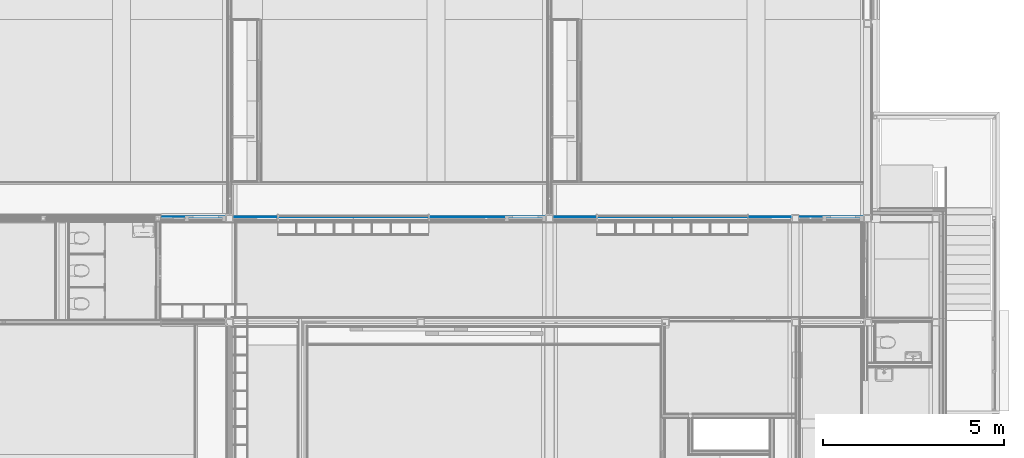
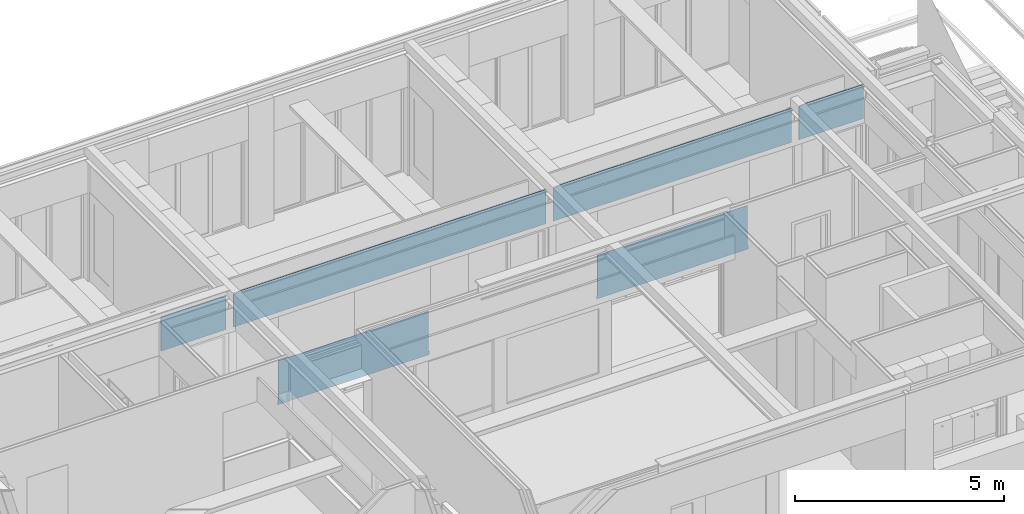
# One storey, part 34 of 165: 1 building element part, 14 openings, 1 element without a shape of its own.
"""IFC2X3 building model written with IfcOpenShell, lengths in millimetres."""

from ifc_helpers import new_model, entity, si_unit, converted_unit, derived_unit, money_unit, direction, frame, origin_with_axes, place, context, subcontext, project, spatial, faceted_brep, material, type_object, element, aggregate, save


model = new_model("IFC2X3")

# Units and contexts
model_context = context("Model", 3, precision=0.01, world=origin_with_axes(), true_north=direction((0.0, 1.0)))
body_context = subcontext(model_context, "Body", "Model", "MODEL_VIEW")
ifc_project = project(units=[si_unit("LENGTHUNIT", "METRE", prefix="MILLI"), si_unit("AREAUNIT", "SQUARE_METRE"), si_unit("VOLUMEUNIT", "CUBIC_METRE"), converted_unit("PLANEANGLEUNIT", "DEGREE", entity("IfcPlaneAngleMeasure", 0.0174532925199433), si_unit("PLANEANGLEUNIT", "RADIAN"), dimensions=[0, 0, 0, 0, 0, 0, 0]), money_unit("EUR"), converted_unit("TIMEUNIT", "Year", entity("IfcTimeMeasure", 31556926.0), si_unit("TIMEUNIT", "SECOND"), dimensions=[0, 0, 1, 0, 0, 0, 0]), si_unit("MASSUNIT", "GRAM", prefix="KILO"), si_unit("THERMODYNAMICTEMPERATUREUNIT", "DEGREE_CELSIUS"), si_unit("LUMINOUSINTENSITYUNIT", "LUMEN"), si_unit("ENERGYUNIT", "JOULE", prefix="MEGA"), derived_unit("THERMALCONDUCTANCEUNIT", [(si_unit("POWERUNIT", "WATT"), 1), (si_unit("LENGTHUNIT", "METRE"), -1), (si_unit("THERMODYNAMICTEMPERATUREUNIT", "KELVIN"), -1)]), derived_unit("SPECIFICHEATCAPACITYUNIT", [(si_unit("ENERGYUNIT", "JOULE"), 1), (si_unit("MASSUNIT", "GRAM", prefix="KILO"), -1), (si_unit("THERMODYNAMICTEMPERATUREUNIT", "KELVIN"), -1)]), derived_unit("MASSDENSITYUNIT", [(si_unit("MASSUNIT", "GRAM", prefix="KILO"), 1), (si_unit("VOLUMEUNIT", "CUBIC_METRE"), -1)])], contexts=[model_context])

# Site, building, storey
site_placement = place(None, origin_with_axes())
site = spatial("IfcSite", under=ifc_project, at=site_placement, Name="Site", CompositionType="ELEMENT")
building_placement = place(site_placement, origin_with_axes())
building = spatial("IfcBuilding", under=site, at=building_placement, Name="Naam gebouw", CompositionType="ELEMENT")
storey_placement = place(building_placement, origin_with_axes())
storey = spatial("IfcBuildingStorey", under=building, at=storey_placement, Name="Begane grond", CompositionType="ELEMENT", Elevation=0.0)

# Proxy, openings, building element part
building_element_proxy_type = type_object("IfcBuildingElementProxyType", Name="22 Metal stud 125 gips 125", PredefinedType="NOTDEFINED")
proxy_placement = place(storey_placement, frame((6940.0, 22324.99474661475, -100.0), z_axis=(0.0, 0.0, 1.0), x_axis=(0.9999999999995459, -9.530261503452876e-07, 0.0)))
proxy = element("IfcBuildingElementProxy", 1, at=proxy_placement, inside=storey, type_object=building_element_proxy_type, Name="_Wand-x")
opening_1_placement = place(proxy_placement, frame((11459.99904000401, 0.0, 100.0), z_axis=(0.0, 0.0, 1.0), x_axis=(1.0, 0.0, 0.0)))
element("IfcOpeningElement", 2, at=opening_1_placement, cuts=proxy, Name="_B.01", context=body_context, shape_type="Brep", body=[
    faceted_brep([(600.0000000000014, -12.50000000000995, -100.0000000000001), (600.0000000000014, -12.50000000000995, 2600.0), (600.0000000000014, -63.51853254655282, 2600.0), (600.0000000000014, -63.51853254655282, -100.0000000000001), (600.0000000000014, 63.51853254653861, -100.0000000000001), (600.0000000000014, 63.51853254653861, 2600.0), (-599.9999999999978, -12.50000000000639, 2600.0), (-599.9999999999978, -63.51853254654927, 2600.0), (-600.0000000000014, 63.51853254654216, 2600.0), (-599.9999999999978, -63.51853254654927, -100.0000000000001), (-599.9999999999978, -12.50000000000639, -100.0000000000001), (-600.0000000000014, 63.51853254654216, -100.0000000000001)], [[[0, 1, 2, 3]], [[1, 0, 4, 5]], [[6, 7, 2, 1, 5, 8]], [[7, 9, 3, 2]], [[0, 3, 9, 10, 11, 4]], [[5, 4, 11, 8]], [[6, 10, 9, 7]], [[10, 6, 8, 11]]]),
])
opening_2_placement = place(proxy_placement, frame((7954.999824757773, 0.0, 100.0), z_axis=(0.0, 0.0, 1.0), x_axis=(1.0, 0.0, 0.0)))
element("IfcOpeningElement", 3, at=opening_2_placement, cuts=proxy, Name="_B.06", context=body_context, shape_type="Brep", body=[
    faceted_brep([(524.9998247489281, -12.50000000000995, -100.0000000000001), (524.9998247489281, -12.50000000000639, 2600.0), (524.9998247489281, -63.51853254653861, 2600.0), (524.9998247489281, -63.51853254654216, -100.0000000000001), (524.9998247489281, 63.5185325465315, -100.0000000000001), (524.9998247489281, 63.51853254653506, 2600.0), (-524.9998247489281, -12.50000000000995, 2600.0), (-524.9998247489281, -63.51853254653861, 2600.0), (-524.9998247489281, 63.51853254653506, 2600.0), (-524.9998247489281, -63.51853254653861, -100.0000000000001), (-524.9998247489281, -12.50000000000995, -100.0000000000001), (-524.9998247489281, 63.51853254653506, -100.0000000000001)], [[[0, 1, 2, 3]], [[1, 0, 4, 5]], [[6, 7, 2, 1, 5, 8]], [[7, 9, 3, 2]], [[0, 3, 9, 10, 11, 4]], [[5, 4, 11, 8]], [[6, 10, 9, 7]], [[10, 6, 8, 11]]]),
])
opening_3_placement = place(proxy_placement, frame((16859.99904000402, 0.0, 100.0), z_axis=(0.0, 0.0, 1.0), x_axis=(1.0, 0.0, 0.0)))
element("IfcOpeningElement", 4, at=opening_3_placement, cuts=proxy, Name="_B.01", context=body_context, shape_type="Brep", body=[
    faceted_brep([(599.9999999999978, -12.50000000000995, -100.0000000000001), (599.9999999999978, -12.50000000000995, 2600.0), (599.9999999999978, -63.51853254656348, 2600.0), (599.9999999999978, -63.51853254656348, -100.0000000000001), (599.9999999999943, 63.5185325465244, -100.0000000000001), (599.9999999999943, 63.5185325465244, 2600.0), (-600.0000000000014, -12.50000000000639, 2600.0), (-600.0000000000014, -63.51853254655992, 2600.0), (-600.0000000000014, 63.51853254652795, 2600.0), (-600.0000000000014, -63.51853254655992, -100.0000000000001), (-600.0000000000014, -12.50000000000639, -100.0000000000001), (-600.0000000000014, 63.51853254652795, -100.0000000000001)], [[[0, 1, 2, 3]], [[1, 0, 4, 5]], [[6, 7, 2, 1, 5, 8]], [[7, 9, 3, 2]], [[0, 3, 9, 10, 11, 4]], [[5, 4, 11, 8]], [[6, 10, 9, 7]], [[10, 6, 8, 11]]]),
])
opening_4_placement = place(proxy_placement, frame((13109.999040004, 0.0, 1300.0), z_axis=(0.0, 0.0, 1.0), x_axis=(1.0, 0.0, 0.0)))
element("IfcOpeningElement", 5, at=opening_4_placement, cuts=proxy, Name="_C.01", context=body_context, shape_type="Brep", body=[
    faceted_brep([(1049.999999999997, -12.50000000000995, 0.0), (1049.999999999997, -12.50000000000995, 1400.0), (1049.999999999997, -63.51853254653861, 1400.0), (1049.999999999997, -63.51853254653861, 0.0), (1049.999999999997, 63.51853254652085, 0.0), (1049.999999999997, 63.51853254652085, 1400.0), (-1049.99999999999, -12.50000000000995, 1400.0), (-1049.999999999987, -63.51853254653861, 1400.0), (-1049.99999999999, 63.5185325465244, 1400.0), (-1049.999999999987, -63.51853254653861, 0.0), (-1049.99999999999, -12.50000000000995, 0.0), (-1049.99999999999, 63.5185325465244, 0.0)], [[[0, 1, 2, 3]], [[1, 0, 4, 5]], [[6, 7, 2, 1, 5, 8]], [[7, 9, 3, 2]], [[0, 3, 9, 10, 11, 4]], [[5, 4, 11, 8]], [[6, 10, 9, 7]], [[10, 6, 8, 11]]]),
])
opening_5_placement = place(proxy_placement, frame((15209.99904000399, 0.0, 1300.000000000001), z_axis=(0.0, 0.0, 1.0), x_axis=(1.0, 0.0, 0.0)))
element("IfcOpeningElement", 6, at=opening_5_placement, cuts=proxy, Name="_C.01", context=body_context, shape_type="Brep", body=[
    faceted_brep([(1050.000000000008, -12.5000000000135, 0.0), (1050.000000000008, -12.5000000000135, 1400.0), (1050.000000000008, -63.51853254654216, 1400.0), (1050.000000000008, -63.51853254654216, 0.0), (1050.000000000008, 63.51853254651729, 0.0), (1050.000000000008, 63.51853254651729, 1400.0), (-1050.000000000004, -12.50000000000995, 1400.0), (-1050.000000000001, -63.51853254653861, 1400.0), (-1050.000000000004, 63.51853254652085, 1400.0), (-1050.000000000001, -63.51853254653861, 0.0), (-1050.000000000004, -12.50000000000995, 0.0), (-1050.000000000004, 63.51853254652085, 0.0)], [[[0, 1, 2, 3]], [[1, 0, 4, 5]], [[6, 7, 2, 1, 5, 8]], [[7, 9, 3, 2]], [[0, 3, 9, 10, 11, 4]], [[5, 4, 11, 8]], [[6, 10, 9, 7]], [[10, 6, 8, 11]]]),
])
opening_6_placement = place(proxy_placement, frame((2620.000000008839, 0.0, 100.0), z_axis=(0.0, 0.0, 1.0), x_axis=(1.0, 0.0, 0.0)))
element("IfcOpeningElement", 7, at=opening_6_placement, cuts=proxy, Name="_B.03", context=body_context, shape_type="Brep", body=[
    faceted_brep([(610.0000000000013, -12.50000000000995, -100.0000000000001), (610.0000000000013, -12.50000000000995, 2600.0), (610.0000000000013, -63.51853254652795, 2600.0), (610.0000000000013, -63.51853254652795, -100.0000000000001), (610.0000000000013, 63.51853254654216, -100.0000000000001), (610.0000000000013, 63.51853254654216, 2600.0), (-610.0000000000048, -12.50000000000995, 2600.0), (-610.0000000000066, -63.51853254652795, 2600.0), (-610.0000000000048, 63.51853254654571, 2600.0), (-610.0000000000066, -63.51853254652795, -100.0000000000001), (-610.0000000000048, -12.50000000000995, -100.0000000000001), (-610.0000000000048, 63.51853254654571, -100.0000000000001)], [[[0, 1, 2, 3]], [[1, 0, 4, 5]], [[6, 7, 2, 1, 5, 8]], [[7, 9, 3, 2]], [[0, 3, 9, 10, 11, 4]], [[5, 4, 11, 8]], [[6, 10, 9, 7]], [[10, 6, 8, 11]]]),
])
opening_7_placement = place(proxy_placement, frame((4280.000000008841, 0.0, 1300.0), z_axis=(0.0, 0.0, 1.0), x_axis=(1.0, 0.0, 0.0)))
element("IfcOpeningElement", 8, at=opening_7_placement, cuts=proxy, Name="_C.01", context=body_context, shape_type="Brep", body=[
    faceted_brep([(1049.999999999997, -12.50000000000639, 0.0), (1049.999999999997, -12.50000000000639, 1400.0), (1049.999999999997, -63.5185325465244, 1400.0), (1049.999999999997, -63.5185325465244, 0.0), (1049.999999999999, 63.51853254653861, 0.0), (1049.999999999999, 63.51853254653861, 1400.0), (-1049.999999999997, -12.50000000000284, 1400.0), (-1049.999999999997, -63.51853254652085, 1400.0), (-1049.999999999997, 63.51853254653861, 1400.0), (-1049.999999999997, -63.51853254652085, 0.0), (-1049.999999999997, -12.50000000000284, 0.0), (-1049.999999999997, 63.51853254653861, 0.0)], [[[0, 1, 2, 3]], [[1, 0, 4, 5]], [[6, 7, 2, 1, 5, 8]], [[7, 9, 3, 2]], [[0, 3, 9, 10, 11, 4]], [[5, 4, 11, 8]], [[6, 10, 9, 7]], [[10, 6, 8, 11]]]),
])
opening_8_placement = place(proxy_placement, frame((9004.999474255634, 0.0, 100.0), z_axis=(0.0, 0.0, 1.0), x_axis=(1.0, 0.0, 0.0)))
element("IfcOpeningElement", 9, at=opening_8_placement, cuts=proxy, Name="_B.06", context=body_context, shape_type="Brep", body=[
    faceted_brep([(524.9998247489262, -12.50000000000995, -100.0000000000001), (524.9998247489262, -12.50000000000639, 2600.0), (524.9998247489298, -63.51853254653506, 2600.0), (524.9998247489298, -63.51853254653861, -100.0000000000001), (524.9998247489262, 63.51853254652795, -100.0000000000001), (524.9998247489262, 63.5185325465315, 2600.0), (-524.9998247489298, -12.50000000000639, 2600.0), (-524.9998247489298, -63.51853254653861, 2600.0), (-524.9998247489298, 63.5185325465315, 2600.0), (-524.9998247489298, -63.51853254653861, -100.0000000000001), (-524.9998247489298, -12.50000000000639, -100.0000000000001), (-524.9998247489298, 63.5185325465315, -100.0000000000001)], [[[0, 1, 2, 3]], [[1, 0, 4, 5]], [[6, 7, 2, 1, 5, 8]], [[7, 9, 3, 2]], [[0, 3, 9, 10, 11, 4]], [[5, 4, 11, 8]], [[6, 10, 9, 7]], [[10, 6, 8, 11]]]),
])
opening_9_placement = place(proxy_placement, frame((17987.99955956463, 0.0, 100.0), z_axis=(0.0, 0.0, 1.0), x_axis=(1.0, 0.0, 0.0)))
element("IfcOpeningElement", 10, at=opening_9_placement, cuts=proxy, Name="_B.09", context=body_context, shape_type="Brep", body=[
    faceted_brep([(-328.0004950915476, 12.49999999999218, -100.0000000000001), (-328.0004950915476, 12.49999999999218, 2600.0), (-328.0004950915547, 63.51853254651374, 2600.0), (-328.0004950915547, 63.51853254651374, -100.0000000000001), (-328.0004950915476, -63.51853254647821, -100.0000000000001), (-328.0004950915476, -63.51853254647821, 2600.0), (328.0004950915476, 12.49999999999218, 2600.0), (328.0004950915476, 63.51853254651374, 2600.0), (328.0004950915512, -63.51853254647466, 2600.0), (328.0004950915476, 63.51853254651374, -100.0000000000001), (328.0004950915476, 12.49999999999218, -100.0000000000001), (328.0004950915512, -63.51853254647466, -100.0000000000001)], [[[0, 1, 2, 3]], [[1, 0, 4, 5]], [[6, 7, 2, 1, 5, 8]], [[7, 9, 3, 2]], [[0, 3, 9, 10, 11, 4]], [[5, 4, 11, 8]], [[6, 10, 9, 7]], [[10, 6, 8, 11]]]),
])
opening_10_placement = place(proxy_placement, frame((18881.00000000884, 0.0, 100.0), z_axis=(0.0, 0.0, 1.0), x_axis=(1.0, 0.0, 0.0)))
element("IfcOpeningElement", 11, at=opening_10_placement, cuts=proxy, Name="_01.01", context=body_context, shape_type="Brep", body=[
    faceted_brep([(-564.9999999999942, -63.51853254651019, 2600.0), (-564.9999999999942, -63.51853254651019, -100.0000000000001), (565.0000000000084, -63.51853254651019, -100.0000000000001), (565.0000000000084, -63.51853254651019, 2600.0), (-564.9999999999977, 63.51853254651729, 2600.0), (-564.9999999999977, 63.51853254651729, -100.0000000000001), (565.0000000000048, 63.51853254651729, -100.0000000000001), (565.0000000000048, 63.51853254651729, 2600.0)], [[[0, 1, 2, 3]], [[4, 5, 1, 0]], [[5, 6, 2, 1]], [[6, 7, 3, 2]], [[7, 4, 0, 3]], [[6, 5, 4, 7]]]),
])
opening_11_placement = place(proxy_placement, frame((10094.99953887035, 0.0, 100.0), z_axis=(0.0, 0.0, 1.0), x_axis=(1.0, 0.0, 0.0)))
element("IfcOpeningElement", 12, at=opening_11_placement, cuts=proxy, Name="_01.01", context=body_context, shape_type="Brep", body=[
    faceted_brep([(-564.9999999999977, -63.51853254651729, 2600.0), (-564.9999999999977, -63.51853254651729, -100.0000000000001), (565.0000000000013, -63.51853254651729, -100.0000000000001), (565.0000000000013, -63.51853254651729, 2600.0), (-565.0000000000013, 63.51853254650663, 2600.0), (-565.0000000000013, 63.51853254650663, -100.0000000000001), (565.0000000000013, 63.51853254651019, -100.0000000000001), (565.0000000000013, 63.51853254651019, 2600.0)], [[[0, 1, 2, 3]], [[4, 5, 1, 0]], [[5, 6, 2, 1]], [[6, 7, 3, 2]], [[7, 4, 0, 3]], [[6, 5, 4, 7]]]),
])
opening_12_placement = place(proxy_placement, frame((6380.000000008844, 0.0, 1300.0), z_axis=(0.0, 0.0, 1.0), x_axis=(1.0, 0.0, 0.0)))
element("IfcOpeningElement", 13, at=opening_12_placement, cuts=proxy, Name="_C.01", context=body_context, shape_type="Brep", body=[
    faceted_brep([(1050.000000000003, -12.50000000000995, 0.0), (1050.000000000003, -12.50000000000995, 1400.0), (1050.000000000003, -63.51853254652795, 1400.0), (1050.000000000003, -63.51853254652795, 0.0), (1050.000000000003, 63.51853254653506, 0.0), (1050.000000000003, 63.51853254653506, 1400.0), (-1050.000000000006, -12.50000000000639, 1400.0), (-1050.000000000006, -63.5185325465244, 1400.0), (-1050.000000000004, 63.51853254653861, 1400.0), (-1050.000000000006, -63.5185325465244, 0.0), (-1050.000000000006, -12.50000000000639, 0.0), (-1050.000000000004, 63.51853254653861, 0.0)], [[[0, 1, 2, 3]], [[1, 0, 4, 5]], [[6, 7, 2, 1, 5, 8]], [[7, 9, 3, 2]], [[0, 3, 9, 10, 11, 4]], [[5, 4, 11, 8]], [[6, 10, 9, 7]], [[10, 6, 8, 11]]]),
])
opening_13_placement = place(proxy_placement, frame((1245.000071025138, 0.0, 100.0), z_axis=(0.0, 0.0, 1.0), x_axis=(1.0, 0.0, 0.0)))
element("IfcOpeningElement", 14, at=opening_13_placement, cuts=proxy, Name="_01.01", context=body_context, shape_type="Brep", body=[
    faceted_brep([(-565.0000000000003, -63.51853254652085, 2600.0), (-565.0000000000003, -63.51853254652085, -100.0000000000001), (564.9999999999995, -63.51853254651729, -100.0000000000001), (564.9999999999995, -63.51853254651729, 2600.0), (-565.0000000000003, 63.51853254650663, 2600.0), (-565.0000000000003, 63.51853254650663, -100.0000000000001), (564.9999999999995, 63.51853254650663, -100.0000000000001), (564.9999999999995, 63.51853254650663, 2600.0)], [[[0, 1, 2, 3]], [[4, 5, 1, 0]], [[5, 6, 2, 1]], [[6, 7, 3, 2]], [[7, 4, 0, 3]], [[6, 5, 4, 7]]]),
])
opening_14_placement = place(proxy_placement, frame((340.0001105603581, 0.0, 100.0), z_axis=(0.0, 0.0, 1.0), x_axis=(1.0, 0.0, 0.0)))
element("IfcOpeningElement", 15, at=opening_14_placement, cuts=proxy, Name="_B.07", context=body_context, shape_type="Brep", body=[
    faceted_brep([(-339.9999604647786, 12.49999999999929, -100.0000000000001), (-339.9999604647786, 12.49999999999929, 2600.0), (-339.9999604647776, 63.51853254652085, 2600.0), (-339.9999604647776, 63.51853254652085, -100.0000000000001), (-339.9999604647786, -63.51853254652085, -100.0000000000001), (-339.9999604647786, -63.51853254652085, 2600.0), (339.9999604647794, 12.49999999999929, 2600.0), (339.9999604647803, 63.51853254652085, 2600.0), (339.9999604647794, -63.5185325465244, 2600.0), (339.9999604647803, 63.51853254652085, -100.0000000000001), (339.9999604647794, 12.49999999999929, -100.0000000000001), (339.9999604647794, -63.5185325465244, -100.0000000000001)], [[[0, 1, 2, 3]], [[1, 0, 4, 5]], [[6, 7, 2, 1, 5, 8]], [[7, 9, 3, 2]], [[0, 3, 9, 10, 11, 4]], [[5, 4, 11, 8]], [[6, 10, 9, 7]], [[10, 6, 8, 11]]]),
])
ifc_material = material(Name="Gipsplaat")
building_element_part_placement = place(proxy_placement, origin_with_axes())
building_element_part = element("IfcBuildingElementPart", 16, at=building_element_part_placement, material=ifc_material, Name="Gipsplaat", context=body_context, shape_type="Brep", body=[
    faceted_brep([(7409.999952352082, 49.99999999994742, 1280.000000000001), (7409.999952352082, 49.99999999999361, 100.0), (7429.999952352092, 49.99999999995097, 100.0), (7430.000000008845, 49.99999999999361, 0.0), (3230.000000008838, 49.99999999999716, 0.0), (3229.999928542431, 50.00000000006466, 100.0), (3249.999928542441, 49.99999999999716, 100.0), (3249.999928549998, 49.99999999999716, 1280.000000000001), (7409.99996426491, 37.49999999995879, 1280.000000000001), (7409.99996426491, 37.49999999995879, 100.0), (7429.999964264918, 37.49999999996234, 100.0), (7430.000000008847, 37.49999999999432, 0.0), (3230.00000000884, 37.49999999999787, 0.0), (3229.999916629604, 37.50000000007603, 100.0), (3249.999916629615, 37.49999999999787, 100.0), (3249.999916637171, 37.49999999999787, 1280.000000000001)], [[[0, 1, 2, 3, 4, 5, 6, 7]], [[1, 0, 8, 9]], [[10, 2, 1, 9]], [[2, 10, 11, 3]], [[11, 12, 4, 3]], [[4, 12, 13, 5]], [[13, 14, 6, 5]], [[14, 15, 7, 6]], [[8, 0, 7, 15]], [[9, 8, 15, 14, 13, 12, 11, 10]]]),
    faceted_brep([(10659.9993888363, 37.49999999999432, 3675.000002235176), (10659.99953887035, 37.49999999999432, 2700.0), (10659.99953887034, 49.99999999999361, 2700.0), (10659.99937692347, 49.99999999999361, 3675.000002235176), (2010.000000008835, 37.49999999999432, 2700.0), (10559.99938883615, 37.49999999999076, 3675.000002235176), (10559.99938883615, 37.49999999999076, 3695.000002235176), (10656.9993888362, 37.49999999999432, 3695.000002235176), (10656.9993888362, 37.49999999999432, 3700.0), (2012.999964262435, 37.49999999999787, 3700.0), (2012.999964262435, 37.49999999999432, 3695.000002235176), (2109.999964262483, 37.49999999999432, 3695.000002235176), (2109.999964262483, 37.49999999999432, 3670.000002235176), (2009.999964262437, 37.49999999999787, 3670.000002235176), (2010.000000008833, 49.99999999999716, 2700.0), (2009.999952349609, 50.00000000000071, 3670.000002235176), (2109.999952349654, 49.99999999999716, 3670.000002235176), (2109.999952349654, 49.99999999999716, 3695.000002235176), (2012.999952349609, 49.99999999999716, 3695.000002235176), (2012.999952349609, 49.99999999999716, 3700.0), (10656.99937692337, 49.99999999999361, 3700.0), (10656.99937692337, 49.99999999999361, 3695.000002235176), (10559.99937692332, 49.99999999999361, 3695.000002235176), (10559.99937692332, 49.99999999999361, 3675.000002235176)], [[[0, 1, 2, 3]], [[4, 1, 0, 5, 6, 7, 8, 9, 10, 11, 12, 13]], [[14, 2, 1, 4]], [[3, 2, 14, 15, 16, 17, 18, 19, 20, 21, 22, 23]], [[3, 23, 5, 0]], [[23, 22, 6, 5]], [[22, 21, 7, 6]], [[21, 20, 8, 7]], [[8, 20, 19, 9]], [[9, 19, 18, 10]], [[18, 17, 11, 10]], [[17, 16, 12, 11]], [[13, 12, 16, 15]], [[15, 14, 4, 13]]]),
    faceted_brep([(12059.99902809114, 50.00000000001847, 100.0), (12079.99902809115, 50.00000000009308, 100.0), (12079.99902809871, 50.00000000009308, 1280.000000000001), (16239.99905191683, 49.99999999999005, 1280.000000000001), (16239.99905191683, 49.99999999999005, 100.0), (16259.99905191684, 50.00000000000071, 100.0), (16259.99904000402, 49.99999999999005, 0.0), (12059.99904000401, 49.99999999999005, 0.0), (12059.99901617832, 37.50000000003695, 100.0), (12079.99901617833, 37.49999999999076, 100.0), (12079.99901618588, 37.500000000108, 1280.000000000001), (16239.99906382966, 37.49999999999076, 1280.000000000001), (16239.99906382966, 37.49999999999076, 100.0), (16259.99906382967, 37.50000000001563, 100.0), (16259.99904000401, 37.49999999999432, 0.0), (12059.99904000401, 37.49999999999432, 0.0)], [[[0, 1, 2, 3, 4, 5, 6, 7]], [[1, 0, 8, 9]], [[10, 2, 1, 9]], [[2, 10, 11, 3]], [[4, 3, 11, 12]], [[4, 12, 13, 5]], [[14, 6, 5, 13]], [[14, 15, 7, 6]], [[8, 0, 7, 15]], [[9, 8, 15, 14, 13, 12, 11, 10]]]),
    faceted_brep([(17459.99904000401, 37.49999999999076, 2700.0), (10859.99904000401, 37.49999999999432, 2700.0), (10859.99904000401, 49.99999999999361, 2700.0), (17459.99904000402, 49.99999999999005, 2700.0), (17459.99900426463, 37.49999999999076, 3680.000029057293), (17359.99900426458, 37.49999999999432, 3680.000029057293), (17359.99900426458, 37.49999999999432, 3695.000029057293), (17458.99900426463, 37.49999999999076, 3695.000029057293), (17458.99900426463, 37.49999999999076, 3700.0), (10862.99938883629, 37.49999999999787, 3700.0), (10862.99938883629, 37.49999999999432, 3695.000002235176), (10959.99938883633, 37.49999999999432, 3695.000002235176), (10959.99938883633, 37.49999999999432, 3675.000002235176), (10859.99938883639, 37.49999999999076, 3675.000002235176), (10859.99937692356, 49.99999999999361, 3675.000002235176), (10959.9993769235, 49.99999999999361, 3675.000002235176), (10959.9993769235, 49.99999999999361, 3695.000002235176), (10862.99937692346, 49.99999999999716, 3695.000002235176), (10862.99937692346, 49.99999999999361, 3700.0), (17458.9989923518, 49.99999999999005, 3700.0), (17458.9989923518, 49.99999999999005, 3695.000029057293), (17359.99899235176, 49.99999999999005, 3695.000029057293), (17359.99899235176, 49.99999999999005, 3680.000029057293), (17459.9989923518, 49.99999999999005, 3680.000029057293)], [[[0, 1, 2, 3]], [[1, 0, 4, 5, 6, 7, 8, 9, 10, 11, 12, 13]], [[1, 13, 14, 2]], [[3, 2, 14, 15, 16, 17, 18, 19, 20, 21, 22, 23]], [[23, 4, 0, 3]], [[5, 4, 23, 22]], [[6, 5, 22, 21]], [[7, 6, 21, 20]], [[8, 7, 20, 19]], [[8, 19, 18, 9]], [[17, 10, 9, 18]], [[11, 10, 17, 16]], [[12, 11, 16, 15]], [[15, 14, 13, 12]]]),
    faceted_brep([(1810.000071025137, 37.49999999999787, 2700.0), (1810.000071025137, 49.99999999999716, 2700.0), (1809.999952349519, 49.99999999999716, 3670.000002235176), (1809.999964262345, 37.49999999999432, 3670.000002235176), (680.0000710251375, 49.99999999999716, 2700.0), (680.0000710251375, 37.49999999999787, 2700.0), (0.0001500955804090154, 37.49999999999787, 2700.0), (0.000150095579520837, 49.99999999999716, 2700.0), (0.0, 49.99999999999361, 3700.0), (1806.999952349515, 49.99999999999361, 3700.0), (1806.999952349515, 49.99999999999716, 3695.000002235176), (1709.999952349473, 50.00000000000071, 3695.000002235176), (1709.999952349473, 50.00000000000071, 3670.000002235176), (1709.999964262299, 37.49999999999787, 3670.000002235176), (1709.999964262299, 37.49999999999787, 3695.000002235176), (1806.999964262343, 37.49999999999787, 3695.000002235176), (1806.999964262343, 37.49999999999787, 3700.0), (0.0, 37.49999999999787, 3700.0)], [[[0, 1, 2, 3]], [[4, 1, 0, 5, 6, 7]], [[1, 4, 7, 8, 9, 10, 11, 12, 2]], [[12, 13, 3, 2]], [[5, 0, 3, 13, 14, 15, 16, 17, 6]], [[6, 17, 8, 7]], [[9, 8, 17, 16]], [[9, 16, 15, 10]], [[10, 15, 14, 11]], [[11, 14, 13, 12]]]),
    faceted_brep([(19446.00000000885, 37.49999999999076, 2700.0), (19446.00000000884, 49.99999999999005, 2700.0), (19446.00000000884, 49.99999999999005, 3393.0), (19446.00000000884, 37.49999999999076, 3393.0), (18316.00000000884, 49.99999999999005, 2700.0), (18316.00000000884, 37.49999999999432, 2700.0), (17659.99906447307, 37.49999999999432, 2700.0), (17659.99906447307, 49.99999999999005, 2700.0), (17659.9989923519, 49.99999999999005, 3680.000029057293), (17759.99899235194, 49.99999999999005, 3680.000029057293), (17759.99899235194, 49.99999999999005, 3695.000029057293), (17660.99899235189, 49.99999999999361, 3695.000029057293), (17660.9989923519, 49.99999999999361, 3700.0), (19446.00000000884, 49.99999999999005, 3700.0), (19446.00000000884, 49.99999999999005, 3695.0), (19360.99994788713, 49.99999999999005, 3695.0), (19360.99994788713, 49.99999999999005, 3683.0), (19446.00000000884, 49.99999999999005, 3683.0), (19446.00000000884, 49.99999999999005, 3405.0), (19443.99995235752, 49.99999999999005, 3405.0), (19443.99995235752, 49.99999999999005, 3393.0), (19443.99996427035, 37.49999999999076, 3393.0), (19443.99996427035, 37.49999999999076, 3405.0), (19446.00000000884, 37.49999999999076, 3405.0), (19446.00000000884, 37.49999999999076, 3683.0), (19360.99995979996, 37.49999999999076, 3683.0), (19360.99995979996, 37.49999999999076, 3695.0), (19446.00000000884, 37.49999999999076, 3695.0), (19446.00000000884, 37.49999999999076, 3700.0), (17660.99900426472, 37.49999999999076, 3700.0), (17660.99900426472, 37.49999999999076, 3695.000029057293), (17759.99900426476, 37.49999999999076, 3695.000029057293), (17759.99900426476, 37.49999999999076, 3680.000029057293), (17659.99900426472, 37.49999999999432, 3680.000029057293)], [[[0, 1, 2, 3]], [[4, 1, 0, 5, 6, 7]], [[1, 4, 7, 8, 9, 10, 11, 12, 13, 14, 15, 16, 17, 18, 19, 20, 2]], [[2, 20, 21, 3]], [[5, 0, 3, 21, 22, 23, 24, 25, 26, 27, 28, 29, 30, 31, 32, 33, 6]], [[6, 33, 8, 7]], [[32, 9, 8, 33]], [[9, 32, 31, 10]], [[10, 31, 30, 11]], [[12, 11, 30, 29]], [[29, 28, 13, 12]], [[14, 13, 28, 27]], [[14, 27, 26, 15]], [[15, 26, 25, 16]], [[17, 16, 25, 24]], [[24, 23, 18, 17]], [[18, 23, 22, 19]], [[19, 22, 21, 20]]]),
])
aggregate(proxy, [building_element_part])

save(model, "model.ifc")
